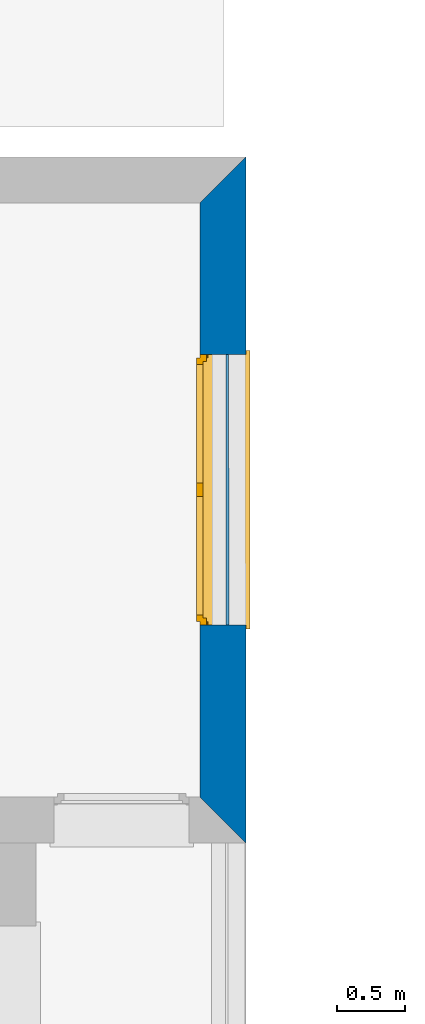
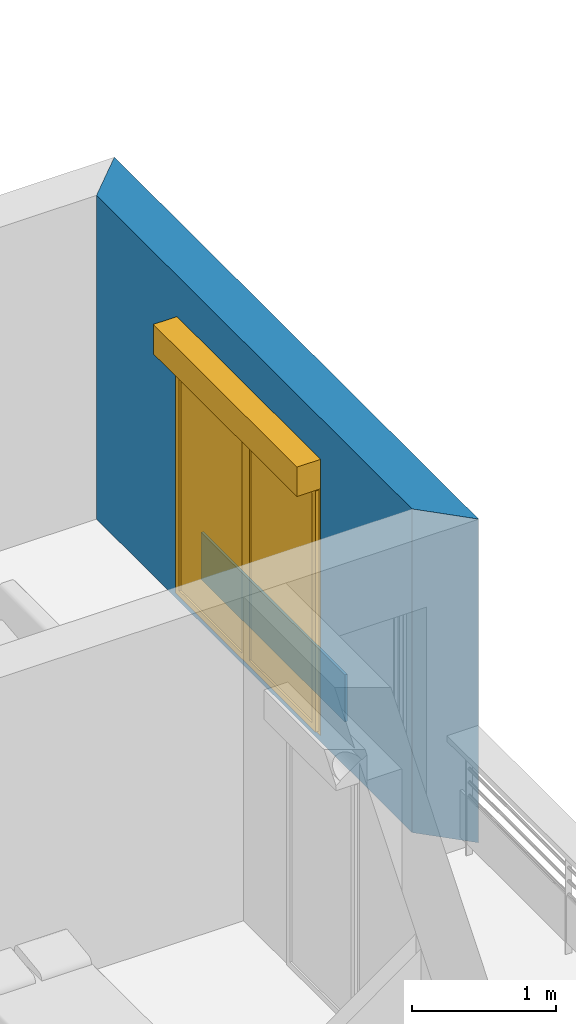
# One storey, part 39 of 164: 2 walls, 1 window, 1 opening.
"""IFC2X3 building model written with IfcOpenShell, lengths in millimetres."""

from ifc_helpers import new_model, entity, si_unit, converted_unit, derived_unit, money_unit, direction, frame, origin_with_axes, place, context, subcontext, project, spatial, polyline, outline, extrude, open_shell, faceted_brep, surface_model, source, transform, mapped, material, layer, layer_set, layer_usage, type_object, element, fill, save


model = new_model("IFC2X3")

# Units and contexts
model_context = context("Model", 3, precision=0.01, world=origin_with_axes(), true_north=direction((0.0, 1.0)))
body_context = subcontext(model_context, "Body", "Model", "MODEL_VIEW")
ifc_project = project(units=[si_unit("LENGTHUNIT", "METRE", prefix="MILLI"), si_unit("AREAUNIT", "SQUARE_METRE"), si_unit("VOLUMEUNIT", "CUBIC_METRE"), converted_unit("PLANEANGLEUNIT", "DEGREE", entity("IfcPlaneAngleMeasure", 0.0174532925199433), si_unit("PLANEANGLEUNIT", "RADIAN"), dimensions=[0, 0, 0, 0, 0, 0, 0]), money_unit("USD"), converted_unit("TIMEUNIT", "Year", entity("IfcTimeMeasure", 31557600.0), si_unit("TIMEUNIT", "SECOND"), dimensions=[0, 0, 1, 0, 0, 0, 0]), si_unit("MASSUNIT", "GRAM", prefix="KILO"), si_unit("THERMODYNAMICTEMPERATUREUNIT", "DEGREE_CELSIUS"), si_unit("LUMINOUSINTENSITYUNIT", "LUMEN"), si_unit("ENERGYUNIT", "JOULE", prefix="MEGA"), derived_unit("THERMALCONDUCTANCEUNIT", [(si_unit("POWERUNIT", "WATT"), 1), (si_unit("LENGTHUNIT", "METRE"), -1), (si_unit("THERMODYNAMICTEMPERATUREUNIT", "KELVIN"), -1)]), derived_unit("SPECIFICHEATCAPACITYUNIT", [(si_unit("ENERGYUNIT", "JOULE"), 1), (si_unit("MASSUNIT", "GRAM", prefix="KILO"), -1), (si_unit("THERMODYNAMICTEMPERATUREUNIT", "KELVIN"), -1)]), derived_unit("MASSDENSITYUNIT", [(si_unit("MASSUNIT", "GRAM", prefix="KILO"), 1), (si_unit("VOLUMEUNIT", "CUBIC_METRE"), -1)])], contexts=[model_context])

# Site, building, storey
site_placement = place(None, origin_with_axes())
site = spatial("IfcSite", under=ifc_project, at=site_placement, Name="Site", CompositionType="ELEMENT")
building_placement = place(site_placement, origin_with_axes())
building = spatial("IfcBuilding", under=site, at=building_placement, Name="Bâtiment", CompositionType="ELEMENT")
storey_placement = place(building_placement, frame((0.0, 0.0, 5750.0), z_axis=(0.0, 0.0, 1.0), x_axis=(1.0, 0.0, 0.0)))
storey = spatial("IfcBuildingStorey", under=building, at=storey_placement, Name="Etage1", CompositionType="ELEMENT", Elevation=5750.0)

# Wall
ifc_material_1 = material(Name="MANQUANT")
ifc_layer_1 = layer(ifc_material_1, 20.0, ventilated="UNKNOWN")
ifc_layer_set_1 = layer_set([ifc_layer_1], Name="MANQUANT 20")
ifc_layer_usage_1 = layer_usage(ifc_layer_set_1, "AXIS2", "NEGATIVE", 20.0)
wall_type_1 = type_object("IfcWallType", Name="MANQUANT 20", PredefinedType="NOTDEFINED")
wall_1_placement = place(storey_placement, frame((2234231.489902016, -639413.4437021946, 99.99999999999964), z_axis=(0.0, 0.0, 1.0), x_axis=(-0.0007973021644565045, 0.9999996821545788, 0.0)))
element("IfcWallStandardCase", 1, at=wall_1_placement, inside=storey, type_object=wall_type_1, material=ifc_layer_usage_1, Name="Mur-150", context=body_context, shape_type="SweptSolid", body=[
    extrude(outline(polyline([(0.0, 0.0), (1999.99999989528, 0.0), (1999.999999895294, 19.99999999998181), (0.0, 19.99999999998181), (0.0, 0.0)])), origin_with_axes(), (0.0, 0.0, 1.0), 400.0),
])

# Wall, opening, window
ifc_material_2 = material(Name="Parpaing 312445824")
ifc_layer_2 = layer(ifc_material_2, 180.0, ventilated="UNKNOWN")
ifc_material_3 = material(Name="Isolant styromousse 301821074")
ifc_layer_3 = layer(ifc_material_3, 160.0, ventilated="UNKNOWN")
ifc_layer_set_2 = layer_set([ifc_layer_2, ifc_layer_3], Name="isol int 18+16 0018356637")
ifc_layer_usage_2 = layer_usage(ifc_layer_set_2, "AXIS2", "POSITIVE", 0.0)
wall_type_2 = type_object("IfcWallType", Name="isol int 18+16 0018356637 340", PredefinedType="NOTDEFINED")
wall_2_placement = place(storey_placement, frame((2234356.671296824, -641025.3255383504, 0.0), z_axis=(0.0, 0.0, 1.0), x_axis=(0.0, 1.0, 0.0)))
wall_2 = element("IfcWallStandardCase", 2, at=wall_2_placement, inside=storey, type_object=wall_type_2, material=ifc_layer_usage_2, Name="Mur-144", context=body_context, shape_type="SweptSolid", body=[
    extrude(outline(polyline([(0.0, 0.0), (5071.981643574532, 0.0), (4731.981643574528, 340.0000000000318), (340.0000000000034, 340.0000000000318), (0.0, 0.0)])), origin_with_axes(), (0.0, 0.0, 1.0), 2750.0),
])
opening_placement = place(wall_2_placement, frame((2611.9816435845, -2.273736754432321e-10, 49.99999999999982), z_axis=(0.0, 0.0, 1.0), x_axis=(1.0, 0.0, 0.0)))
opening = element("IfcOpeningElement", 3, at=opening_placement, cuts=wall_2, Name="Fen-207", context=body_context, shape_type="Brep", body=[
    faceted_brep([(1000.0, 290.0000000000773, 2100.0), (1000.0, 280.0000000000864, 2100.0), (1000.0, -0.9999999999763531, 2100.0), (1000.0, -0.9999999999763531, 0.0), (1000.0, 290.0000000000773, 0.0), (1000.0, 341.0000000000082, 2100.0), (1000.0, 530.0000000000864, 2100.0), (1000.0, 530.0000000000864, 2350.0), (1000.0, 280.0000000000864, 2350.0), (-1000.0, 280.0000000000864, 2100.0), (-1000.0, -0.9999999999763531, 2100.0), (-1000.0, -0.9999999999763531, 0.0), (-1000.0, 290.0000000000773, 0.0), (-1000.0, 341.0000000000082, 0.0), (1000.0, 341.0000000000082, 0.0), (-1000.0, 341.0000000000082, 2100.0), (-1000.0, 530.0000000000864, 2100.0), (-1000.0, 530.0000000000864, 2350.0), (-1000.0, 280.0000000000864, 2350.0), (-1000.0, 290.0000000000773, 2100.0)], [[[0, 1, 2, 3, 4]], [[1, 0, 5, 6, 7, 8]], [[1, 9, 10, 2]], [[10, 11, 3, 2]], [[4, 3, 11, 12, 13, 14]], [[5, 0, 4, 14]], [[5, 15, 16, 6]], [[7, 6, 16, 17]], [[8, 7, 17, 18]], [[9, 1, 8, 18]], [[9, 19, 12, 11, 10]], [[19, 15, 13, 12]], [[15, 5, 14, 13]], [[19, 9, 18, 17, 16, 15]]]),
])
window_style = type_object("IfcWindowStyle", Name="Fenêtre châssis double variable 27", ConstructionType="NOTDEFINED", OperationType="DOUBLE_PANEL_VERTICAL", ParameterTakesPrecedence=False, Sizeable=False)
shared_shape = source(origin_with_axes(), body_context, "Body", "SurfaceModel", [
    surface_model("IfcShellBasedSurfaceModel", [(1000.0, -51.00000000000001, 40.00000000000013), (1000.0, -51.00000000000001, 50.00000000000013), (-1000.0, -51.00000000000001, 50.0), (-1000.0, -51.00000000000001, 40.0), (1030.0, -369.9999999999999, 28.96551724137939), (1030.0, -339.9999999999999, 30.00324289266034), (1000.0, -339.9999999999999, 30.00324289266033), (-1000.0, -339.9999999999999, 30.00324289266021), (-1030.0, -339.9999999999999, 30.00324289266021), (-1030.0, -369.9999999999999, 28.96551724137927), (1030.0, -369.9999999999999, 8.965517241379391), (-1030.0, -369.9999999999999, 8.965517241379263), (1030.0, -359.9999999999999, 18.96551724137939), (-1030.0, -359.9999999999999, 18.96551724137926)], [open_shell([[[0, 1, 2, 3]], [[4, 5, 6, 0, 3, 7, 8, 9]], [[10, 4, 9, 11]], [[12, 10, 11, 13]]])]),
    faceted_brep([(-1000.0, -60.00000000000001, 2350.0), (-997.0, -60.00000000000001, 2350.0), (-997.0, 190.0, 2350.0), (-1000.0, 190.0, 2350.0), (-1000.0, -60.00000000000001, 2100.0), (-997.0, -60.00000000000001, 2100.0), (-997.0, 190.0, 2100.0), (-1000.0, 190.0, 2100.0)], [[[0, 1, 2, 3]], [[4, 5, 1, 0]], [[1, 5, 6, 2]], [[3, 2, 6, 7]], [[0, 3, 7, 4]], [[7, 6, 5, 4]]]),
    faceted_brep([(997.0000000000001, -59.99999999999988, 2350.0), (1000.0, -59.99999999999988, 2350.0), (1000.0, 190.0000000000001, 2350.0), (997.0000000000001, 190.0000000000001, 2350.0), (997.0000000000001, -59.99999999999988, 2100.0), (1000.0, -59.99999999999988, 2100.0), (1000.0, 190.0000000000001, 2100.0), (997.0000000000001, 190.0000000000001, 2100.0)], [[[0, 1, 2, 3]], [[4, 5, 1, 0]], [[1, 5, 6, 2]], [[3, 2, 6, 7]], [[0, 3, 7, 4]], [[7, 6, 5, 4]]]),
    faceted_brep([(-997.0, -60.0, 2100.0), (997.0, -59.99999999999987, 2100.0), (997.0, -59.99999999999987, 2350.0), (-997.0, -60.0, 2350.0), (-997.0, -56.99999999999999, 2100.0), (997.0, -56.99999999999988, 2100.0), (997.0, -56.99999999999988, 2347.0), (997.0, 187.0000000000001, 2347.0), (997.0, 187.0000000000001, 2103.0), (997.0, -37.99999999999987, 2103.0), (997.0, -37.99999999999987, 2100.0), (997.0, 190.0000000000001, 2100.0), (997.0, 190.0000000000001, 2350.0), (-997.0, 190.0, 2350.0), (-997.0, 190.0, 2100.0), (-997.0, -37.99999999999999, 2100.0), (-997.0, -37.99999999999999, 2103.0), (-997.0, 187.0, 2103.0), (-997.0, 187.0, 2347.0), (-997.0, -56.99999999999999, 2347.0)], [[[0, 1, 2, 3]], [[4, 5, 1, 0]], [[1, 5, 6, 7, 8, 9, 10, 11, 12, 2]], [[3, 2, 12, 13]], [[0, 3, 13, 14, 15, 16, 17, 18, 19, 4]], [[19, 6, 5, 4]], [[18, 7, 6, 19]], [[17, 8, 7, 18]], [[16, 9, 8, 17]], [[15, 10, 9, 16]], [[14, 11, 10, 15]], [[13, 12, 11, 14]]]),
    faceted_brep([(-994.0, -40.37442957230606, 2206.419644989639), (-994.0, -41.99999999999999, 2225.0), (-994.0, -40.37442957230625, 2243.580355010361), (-994.0, -35.54711042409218, 2261.596155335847), (-994.0, -27.66471820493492, 2278.5), (-994.0, -16.96675541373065, 2293.77827423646), (-994.0, -3.778274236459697, 2306.966755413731), (-994.0, 11.5, 2317.664718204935), (-994.0, 28.40384466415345, 2325.547110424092), (-994.0, 46.41964498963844, 2330.374429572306), (-994.0, 64.99999999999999, 2332.0), (-994.0, 83.58035501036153, 2330.374429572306), (-994.0, 101.5961553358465, 2325.547110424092), (-994.0, 118.5, 2317.664718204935), (-994.0, 133.7782742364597, 2306.966755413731), (-994.0, 146.9667554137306, 2293.77827423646), (-994.0, 157.6647182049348, 2278.5), (-994.0, 165.5471104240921, 2261.596155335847), (-994.0, 170.3744295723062, 2243.580355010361), (-994.0, 171.9999999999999, 2225.0), (-994.0, 170.3744295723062, 2206.419644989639), (-994.0, 165.5471104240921, 2188.403844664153), (-994.0, 157.6647182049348, 2171.5), (-994.0, 146.9667554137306, 2156.22172576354), (-994.0, 133.7782742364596, 2143.03324458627), (-994.0, 118.4999999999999, 2132.335281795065), (-994.0, 101.5961553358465, 2124.452889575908), (-994.0, 83.58035501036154, 2119.625570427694), (-994.0, 65.00000000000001, 2118.0), (-994.0, 46.4196449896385, 2119.625570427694), (-994.0, 28.40384466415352, 2124.452889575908), (-994.0, 11.50000000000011, 2132.335281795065), (-994.0, -3.778274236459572, 2143.03324458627), (-994.0, -16.9667554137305, 2156.22172576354), (-994.0, -27.66471820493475, 2171.5), (-994.0, -35.54711042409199, 2188.403844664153), (994.0, -40.37442957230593, 2206.419644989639), (994.0, -41.99999999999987, 2225.0), (994.0, -40.37442957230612, 2243.580355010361), (994.0, -35.54711042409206, 2261.596155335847), (994.0, -27.6647182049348, 2278.5), (994.0, -16.96675541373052, 2293.77827423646), (994.0, -3.778274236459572, 2306.966755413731), (994.0, 11.50000000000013, 2317.664718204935), (994.0, 28.40384466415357, 2325.547110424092), (994.0, 46.41964498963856, 2330.374429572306), (994.0, 65.00000000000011, 2332.0), (994.0, 83.58035501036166, 2330.374429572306), (994.0, 101.5961553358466, 2325.547110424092), (994.0, 118.5000000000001, 2317.664718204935), (994.0, 133.7782742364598, 2306.966755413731), (994.0, 146.9667554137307, 2293.77827423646), (994.0, 157.664718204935, 2278.5), (994.0, 165.5471104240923, 2261.596155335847), (994.0, 170.3744295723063, 2243.580355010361), (994.0, 172.0, 2225.0), (994.0, 170.3744295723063, 2206.419644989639), (994.0, 165.5471104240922, 2188.403844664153), (994.0, 157.6647182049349, 2171.5), (994.0, 146.9667554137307, 2156.22172576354), (994.0, 133.7782742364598, 2143.03324458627), (994.0, 118.5000000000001, 2132.335281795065), (994.0, 101.5961553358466, 2124.452889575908), (994.0, 83.58035501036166, 2119.625570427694), (994.0, 65.00000000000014, 2118.0), (994.0, 46.41964498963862, 2119.625570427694), (994.0, 28.40384466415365, 2124.452889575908), (994.0, 11.50000000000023, 2132.335281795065), (994.0, -3.778274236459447, 2143.03324458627), (994.0, -16.96675541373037, 2156.22172576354), (994.0, -27.66471820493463, 2171.5), (994.0, -35.54711042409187, 2188.403844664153)], [[[0, 1, 2, 3, 4, 5, 6, 7, 8, 9, 10, 11, 12, 13, 14, 15, 16, 17, 18, 19, 20, 21, 22, 23, 24, 25, 26, 27, 28, 29, 30, 31, 32, 33, 34, 35]], [[0, 36, 37, 1]], [[1, 37, 38, 2]], [[2, 38, 39, 3]], [[3, 39, 40, 4]], [[4, 40, 41, 5]], [[5, 41, 42, 6]], [[6, 42, 43, 7]], [[7, 43, 44, 8]], [[8, 44, 45, 9]], [[9, 45, 46, 10]], [[10, 46, 47, 11]], [[11, 47, 48, 12]], [[12, 48, 49, 13]], [[13, 49, 50, 14]], [[14, 50, 51, 15]], [[15, 51, 52, 16]], [[16, 52, 53, 17]], [[17, 53, 54, 18]], [[18, 54, 55, 19]], [[19, 55, 56, 20]], [[20, 56, 57, 21]], [[21, 57, 58, 22]], [[22, 58, 59, 23]], [[23, 59, 60, 24]], [[24, 60, 61, 25]], [[25, 61, 62, 26]], [[26, 62, 63, 27]], [[27, 63, 64, 28]], [[28, 64, 65, 29]], [[29, 65, 66, 30]], [[30, 66, 67, 31]], [[31, 67, 68, 32]], [[32, 68, 69, 33]], [[33, 69, 70, 34]], [[34, 70, 71, 35]], [[35, 71, 36, 0]], [[36, 71, 70, 69, 68, 67, 66, 65, 64, 63, 62, 61, 60, 59, 58, 57, 56, 55, 54, 53, 52, 51, 50, 49, 48, 47, 46, 45, 44, 43, 42, 41, 40, 39, 38, 37]]]),
    faceted_brep([(1000.0, -34.99999999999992, 30.0), (1000.0, -34.99999999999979, 2100.0), (1000.0, -59.99999999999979, 2100.0), (1000.0, -59.99999999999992, 30.0), (975.0, -34.99999999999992, 30.0), (975.0, -34.99999999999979, 2100.0), (975.0, -37.99999999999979, 2100.0), (997.0, -37.99999999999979, 2100.0), (997.0, -56.99999999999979, 2100.0), (975.0, -56.99999999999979, 2100.0), (975.0, -59.99999999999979, 2100.0), (975.0, -59.99999999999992, 30.0), (975.0, -56.99999999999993, 30.0), (997.0, -56.99999999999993, 30.0), (997.0, -37.99999999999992, 30.0), (975.0, -37.99999999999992, 30.0)], [[[0, 1, 2, 3]], [[4, 5, 1, 0]], [[1, 5, 6, 7, 8, 9, 10, 2]], [[3, 2, 10, 11]], [[0, 3, 11, 12, 13, 14, 15, 4]], [[15, 6, 5, 4]], [[14, 7, 6, 15]], [[13, 8, 7, 14]], [[12, 9, 8, 13]], [[11, 10, 9, 12]]]),
    faceted_brep([(-1000.0, -34.99999999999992, 30.0), (-1000.0, -59.99999999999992, 30.0), (-1000.0, -59.99999999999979, 2100.0), (-1000.0, -34.99999999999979, 2100.0), (-975.0, -34.99999999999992, 30.0), (-975.0, -37.99999999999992, 30.0), (-997.0, -37.99999999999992, 30.0), (-997.0, -56.99999999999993, 30.0), (-975.0, -56.99999999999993, 30.0), (-975.0, -59.99999999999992, 30.0), (-975.0, -59.99999999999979, 2100.0), (-975.0, -56.99999999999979, 2100.0), (-997.0, -56.99999999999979, 2100.0), (-997.0, -37.99999999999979, 2100.0), (-975.0, -37.99999999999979, 2100.0), (-975.0, -34.99999999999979, 2100.0)], [[[0, 1, 2, 3]], [[0, 4, 5, 6, 7, 8, 9, 1]], [[1, 9, 10, 2]], [[3, 2, 10, 11, 12, 13, 14, 15]], [[4, 0, 3, 15]], [[5, 4, 15, 14]], [[6, 5, 14, 13]], [[7, 6, 13, 12]], [[8, 7, 12, 11]], [[9, 8, 11, 10]]]),
    faceted_brep([(997.0, -46.66666666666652, 2225.0), (997.0, -46.66666666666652, 2216.666666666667), (-997.0, -46.66666666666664, 2216.666666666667), (-997.0, -46.66666666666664, 2225.0), (997.0, -51.66666666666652, 2225.0), (997.0, -51.66666666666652, 2216.666666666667), (997.0, -49.99999999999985, 2200.0), (997.0, -44.99999999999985, 2200.0), (-997.0, -44.99999999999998, 2200.0), (-997.0, -49.99999999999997, 2200.0), (-997.0, -51.66666666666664, 2216.666666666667), (-997.0, -51.66666666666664, 2225.0)], [[[0, 1, 2, 3]], [[4, 5, 6, 7, 1, 0]], [[2, 1, 7, 8]], [[3, 2, 8, 9, 10, 11]], [[3, 11, 4, 0]], [[10, 5, 4, 11]], [[9, 6, 5, 10]], [[8, 7, 6, 9]]]),
    faceted_brep([(-997.0, -44.99999999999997, 2200.0), (997.0, -44.99999999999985, 2200.0), (997.0, -46.66666666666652, 2183.333333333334), (-997.0, -46.66666666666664, 2183.333333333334), (-997.0, -49.99999999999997, 2200.0), (997.0, -49.99999999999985, 2200.0), (997.0, -51.66666666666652, 2183.333333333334), (997.0, -51.66666666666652, 2166.666666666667), (997.0, -49.99999999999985, 2150.000000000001), (997.0, -44.99999999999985, 2150.000000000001), (997.0, -46.66666666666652, 2166.666666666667), (-997.0, -46.66666666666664, 2166.666666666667), (-997.0, -44.99999999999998, 2150.000000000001), (-997.0, -49.99999999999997, 2150.000000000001), (-997.0, -51.66666666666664, 2166.666666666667), (-997.0, -51.66666666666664, 2183.333333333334)], [[[0, 1, 2, 3]], [[4, 5, 1, 0]], [[1, 5, 6, 7, 8, 9, 10, 2]], [[3, 2, 10, 11]], [[0, 3, 11, 12, 13, 14, 15, 4]], [[15, 6, 5, 4]], [[14, 7, 6, 15]], [[13, 8, 7, 14]], [[12, 9, 8, 13]], [[11, 10, 9, 12]]]),
    faceted_brep([(-997.0, -44.99999999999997, 2150.000000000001), (997.0, -44.99999999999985, 2150.000000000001), (997.0, -46.66666666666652, 2133.333333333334), (-997.0, -46.66666666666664, 2133.333333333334), (-997.0, -49.99999999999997, 2150.000000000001), (997.0, -49.99999999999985, 2150.000000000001), (997.0, -51.66666666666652, 2133.333333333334), (997.0, -51.66666666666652, 2116.666666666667), (997.0, -49.99999999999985, 2100.000000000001), (997.0, -44.99999999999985, 2100.000000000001), (997.0, -46.66666666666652, 2116.666666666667), (-997.0, -46.66666666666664, 2116.666666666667), (-997.0, -44.99999999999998, 2100.000000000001), (-997.0, -49.99999999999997, 2100.000000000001), (-997.0, -51.66666666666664, 2116.666666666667), (-997.0, -51.66666666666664, 2133.333333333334)], [[[0, 1, 2, 3]], [[4, 5, 1, 0]], [[1, 5, 6, 7, 8, 9, 10, 2]], [[3, 2, 10, 11]], [[0, 3, 11, 12, 13, 14, 15, 4]], [[15, 6, 5, 4]], [[14, 7, 6, 15]], [[13, 8, 7, 14]], [[12, 9, 8, 13]], [[11, 10, 9, 12]]]),
    faceted_brep([(-975.0, 0.0, 2050.0), (-1000.0, 0.0, 2050.0), (-1000.0, -50.00000000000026, 2050.0), (-950.0, -50.00000000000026, 2050.0), (-950.0, -25.00000000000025, 2050.0), (-975.0, -25.00000000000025, 2050.0), (-975.0, 0.0, 50.00000000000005), (-1000.0, 0.0, 50.00000000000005), (-1000.0, -50.00000000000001, 50.00000000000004), (-950.0, -50.00000000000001, 50.00000000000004), (-950.0, -25.00000000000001, 50.00000000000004), (-975.0, -25.00000000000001, 50.00000000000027)], [[[0, 1, 2, 3, 4, 5]], [[6, 7, 1, 0]], [[1, 7, 8, 2]], [[2, 8, 9, 3]], [[4, 3, 9, 10]], [[10, 11, 5, 4]], [[5, 11, 6, 0]], [[11, 10, 9, 8, 7, 6]]]),
    faceted_brep([(950.0, -25.00000000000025, 2050.0), (950.0, -50.00000000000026, 2050.0), (1000.0, -50.00000000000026, 2050.0), (1000.0, 0.0, 2050.0), (975.0, 0.0, 2050.0), (975.0, -25.00000000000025, 2050.0), (950.0, -25.00000000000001, 50.00000000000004), (950.0, -50.00000000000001, 50.00000000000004), (1000.0, -50.00000000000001, 50.00000000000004), (1000.0, 0.0, 50.00000000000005), (975.0, 0.0, 50.00000000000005), (975.0, -25.00000000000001, 50.00000000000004)], [[[0, 1, 2, 3, 4, 5]], [[6, 7, 1, 0]], [[8, 2, 1, 7]], [[9, 3, 2, 8]], [[4, 3, 9, 10]], [[10, 11, 5, 4]], [[5, 11, 6, 0]], [[11, 10, 9, 8, 7, 6]]]),
    faceted_brep([(950.0, -25.00000000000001, 50.00000000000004), (950.0, -50.00000000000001, 50.00000000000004), (1000.0, -50.00000000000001, 50.00000000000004), (1000.0, 0.0, 50.00000000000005), (975.0, 0.0, 50.00000000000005), (975.0, -25.00000000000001, 50.00000000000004), (-950.0, -25.00000000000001, 50.00000000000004), (-950.0, -50.00000000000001, 50.00000000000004), (-1000.0, -50.00000000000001, 50.00000000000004), (-1000.0, -50.0, 0.0), (1000.0, -50.0, 0.0), (1000.0, 0.0, 0.0), (-975.0, 0.0, 24.99999999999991), (975.0, 0.0, 24.99999999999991), (-1000.0, 0.0, 0.0), (-1000.0, 0.0, 50.00000000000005), (-975.0, 0.0, 50.00000000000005), (975.0, -25.0, 24.99999999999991), (-975.0, -25.0, 24.99999999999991), (-975.0, -25.00000000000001, 50.00000000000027)], [[[0, 1, 2, 3, 4, 5]], [[6, 7, 1, 0]], [[8, 9, 10, 2, 1, 7]], [[11, 3, 2, 10]], [[12, 13, 4, 3, 11, 14, 15, 16]], [[13, 17, 5, 4]], [[5, 17, 18, 19, 6, 0]], [[19, 16, 15, 8, 7, 6]], [[15, 14, 9, 8]], [[14, 11, 10, 9]], [[12, 18, 17, 13]], [[19, 18, 12, 16]]]),
    faceted_brep([(-975.0, 0.0, 2050.0), (-1000.0, 0.0, 2050.0), (-1000.0, 0.0, 2100.0), (1000.0, 0.0, 2100.0), (1000.0, 0.0, 2050.0), (975.0, 0.0, 2050.0), (975.0, 0.0, 2075.0), (-975.0, 0.0, 2075.0), (-975.0, -25.00000000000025, 2050.0), (-950.0, -25.00000000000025, 2050.0), (-950.0, -50.00000000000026, 2050.0), (-1000.0, -50.00000000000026, 2050.0), (-1000.0, -50.00000000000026, 2100.0), (1000.0, -50.00000000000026, 2100.0), (1000.0, -50.00000000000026, 2050.0), (975.0, -25.00000000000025, 2050.0), (950.0, -50.00000000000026, 2050.0), (950.0, -25.00000000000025, 2050.0), (975.0, -25.00000000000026, 2075.0), (-975.0, -25.00000000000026, 2075.0)], [[[0, 1, 2, 3, 4, 5, 6, 7]], [[8, 9, 10, 11, 1, 0]], [[2, 1, 11, 12]], [[3, 2, 12, 13]], [[4, 3, 13, 14]], [[15, 5, 4, 14, 16, 17]], [[5, 15, 18, 6]], [[6, 18, 19, 7]], [[7, 19, 8, 0]], [[17, 9, 8, 19, 18, 15]], [[17, 16, 10, 9]], [[14, 13, 12, 11, 10, 16]]]),
    faceted_brep([(-925.0, -25.00000000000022, 2025.0), (-925.0, 24.99999999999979, 2025.0), (-975.0, 24.99999999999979, 2025.0), (-975.0, -25.00000000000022, 2025.0), (-925.0, -24.99999999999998, 75.00000000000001), (-925.0, 25.00000000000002, 75.00000000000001), (-975.0, 25.00000000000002, 75.00000000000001), (-975.0, -24.99999999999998, 75.00000000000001)], [[[0, 1, 2, 3]], [[4, 5, 1, 0]], [[1, 5, 6, 2]], [[3, 2, 6, 7]], [[0, 3, 7, 4]], [[7, 6, 5, 4]]]),
    faceted_brep([(-49.99999999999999, -25.00000000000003, 75.00000000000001), (-49.99999999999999, 24.99999999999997, 75.00000000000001), (0.0, 24.99999999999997, 75.00000000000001), (0.0, -25.00000000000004, 75.00000000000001), (-49.99999999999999, -25.00000000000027, 2025.0), (-49.99999999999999, 24.99999999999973, 2025.0), (0.0, 24.99999999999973, 2025.0), (0.0, -25.00000000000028, 2025.0)], [[[0, 1, 2, 3]], [[4, 5, 1, 0]], [[1, 5, 6, 2]], [[3, 2, 6, 7]], [[0, 3, 7, 4]], [[7, 6, 5, 4]]]),
    faceted_brep([(0.0, -25.00000000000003, 25.0), (0.0, 24.99999999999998, 25.00000000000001), (0.0, 24.99999999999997, 75.00000000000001), (0.0, -25.00000000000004, 75.00000000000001), (-975.0, -24.99999999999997, 25.0), (-975.0, 25.00000000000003, 25.00000000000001), (-975.0, 25.00000000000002, 75.00000000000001), (-925.0, 25.00000000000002, 75.00000000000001), (-49.99999999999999, 24.99999999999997, 75.00000000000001), (-49.99999999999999, -25.00000000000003, 75.00000000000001), (-925.0, -24.99999999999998, 75.00000000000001), (-975.0, -24.99999999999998, 75.00000000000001)], [[[0, 1, 2, 3]], [[4, 5, 1, 0]], [[1, 5, 6, 7, 8, 2]], [[3, 2, 8, 9]], [[0, 3, 9, 10, 11, 4]], [[11, 6, 5, 4]], [[10, 7, 6, 11]], [[9, 8, 7, 10]]]),
    faceted_brep([(-975.0, -25.00000000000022, 2075.0), (-975.0, 24.99999999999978, 2075.0), (-975.0, 24.99999999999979, 2025.0), (-975.0, -25.00000000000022, 2025.0), (0.0, -25.00000000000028, 2075.0), (0.0, 24.99999999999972, 2075.0), (0.0, 24.99999999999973, 2025.0), (-49.99999999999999, 24.99999999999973, 2025.0), (-925.0, 24.99999999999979, 2025.0), (-925.0, -25.00000000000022, 2025.0), (-49.99999999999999, -25.00000000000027, 2025.0), (0.0, -25.00000000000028, 2025.0)], [[[0, 1, 2, 3]], [[4, 5, 1, 0]], [[1, 5, 6, 7, 8, 2]], [[3, 2, 8, 9]], [[0, 3, 9, 10, 11, 4]], [[11, 6, 5, 4]], [[10, 7, 6, 11]], [[9, 8, 7, 10]]]),
    surface_model("IfcShellBasedSurfaceModel", [(-925.0, -10.00000000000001, 75.00000000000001), (-49.99999999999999, -10.00000000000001, 75.00000000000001), (-49.99999999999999, -10.00000000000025, 2025.0), (-925.0, -10.00000000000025, 2025.0)], [open_shell([[[0, 1, 2, 3]]])]),
    surface_model("IfcShellBasedSurfaceModel", [(-925.0, 9.999999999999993, 75.00000000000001), (-925.0, 9.999999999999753, 2025.0), (-49.99999999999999, 9.999999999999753, 2025.0), (-49.99999999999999, 9.999999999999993, 75.00000000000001)], [open_shell([[[0, 1, 2, 3]]])]),
    faceted_brep([(49.99999999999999, -25.00000000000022, 2025.0), (49.99999999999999, 24.99999999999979, 2025.0), (0.0, 24.99999999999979, 2025.0), (0.0, -25.00000000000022, 2025.0), (49.99999999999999, -24.99999999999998, 75.00000000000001), (49.99999999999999, 25.00000000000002, 75.00000000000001), (0.0, 25.00000000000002, 75.00000000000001), (0.0, -24.99999999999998, 75.00000000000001)], [[[0, 1, 2, 3]], [[4, 5, 1, 0]], [[1, 5, 6, 2]], [[3, 2, 6, 7]], [[0, 3, 7, 4]], [[7, 6, 5, 4]]]),
    faceted_brep([(925.0, -25.00000000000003, 75.00000000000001), (925.0, 24.99999999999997, 75.00000000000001), (975.0, 24.99999999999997, 75.00000000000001), (975.0, -25.00000000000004, 75.00000000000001), (925.0, -25.00000000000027, 2025.0), (925.0, 24.99999999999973, 2025.0), (975.0, 24.99999999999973, 2025.0), (975.0, -25.00000000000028, 2025.0)], [[[0, 1, 2, 3]], [[4, 5, 1, 0]], [[1, 5, 6, 2]], [[3, 2, 6, 7]], [[0, 3, 7, 4]], [[7, 6, 5, 4]]]),
    faceted_brep([(975.0, -25.00000000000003, 25.0), (975.0, 24.99999999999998, 25.00000000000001), (975.0, 24.99999999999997, 75.00000000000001), (975.0, -25.00000000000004, 75.00000000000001), (0.0, -24.99999999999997, 25.0), (0.0, 25.00000000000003, 25.00000000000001), (0.0, 25.00000000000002, 75.00000000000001), (49.99999999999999, 25.00000000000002, 75.00000000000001), (925.0, 24.99999999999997, 75.00000000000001), (925.0, -25.00000000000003, 75.00000000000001), (49.99999999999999, -24.99999999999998, 75.00000000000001), (0.0, -24.99999999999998, 75.00000000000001)], [[[0, 1, 2, 3]], [[4, 5, 1, 0]], [[1, 5, 6, 7, 8, 2]], [[3, 2, 8, 9]], [[0, 3, 9, 10, 11, 4]], [[11, 6, 5, 4]], [[10, 7, 6, 11]], [[9, 8, 7, 10]]]),
    faceted_brep([(0.0, -25.00000000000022, 2075.0), (0.0, 24.99999999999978, 2075.0), (0.0, 24.99999999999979, 2025.0), (0.0, -25.00000000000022, 2025.0), (975.0, -25.00000000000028, 2075.0), (975.0, 24.99999999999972, 2075.0), (975.0, 24.99999999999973, 2025.0), (925.0, 24.99999999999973, 2025.0), (49.99999999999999, 24.99999999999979, 2025.0), (49.99999999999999, -25.00000000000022, 2025.0), (925.0, -25.00000000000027, 2025.0), (975.0, -25.00000000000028, 2025.0)], [[[0, 1, 2, 3]], [[4, 5, 1, 0]], [[1, 5, 6, 7, 8, 2]], [[3, 2, 8, 9]], [[0, 3, 9, 10, 11, 4]], [[11, 6, 5, 4]], [[10, 7, 6, 11]], [[9, 8, 7, 10]]]),
    surface_model("IfcShellBasedSurfaceModel", [(49.99999999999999, -10.00000000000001, 75.00000000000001), (925.0, -10.00000000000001, 75.00000000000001), (925.0, -10.00000000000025, 2025.0), (49.99999999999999, -10.00000000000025, 2025.0)], [open_shell([[[0, 1, 2, 3]]])]),
    surface_model("IfcShellBasedSurfaceModel", [(49.99999999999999, 9.999999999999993, 75.00000000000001), (49.99999999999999, 9.999999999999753, 2025.0), (925.0, 9.999999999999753, 2025.0), (925.0, 9.999999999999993, 75.00000000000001)], [open_shell([[[0, 1, 2, 3]]])]),
])
window_placement = place(opening_placement, frame((-1000.0, -2.273736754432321e-10, 0.0), z_axis=(0.0, 0.0, 1.0), x_axis=(1.0, 0.0, 0.0)))
window = element("IfcWindow", 4, at=window_placement, inside=storey, type_object=window_style, Name="Fen-207", OverallHeight=2100.0, OverallWidth=2000.0, context=body_context, shape_type="MappedRepresentation", body=[
    mapped(shared_shape, transform((1000.0, 340.0000000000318, 0.0))),
])
fill(opening, window)

save(model, "model.ifc")
